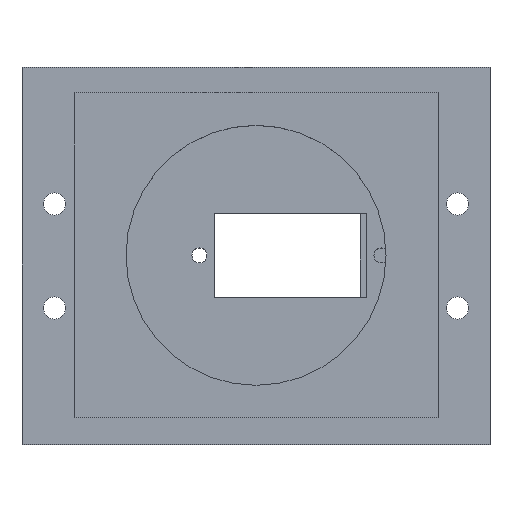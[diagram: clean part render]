
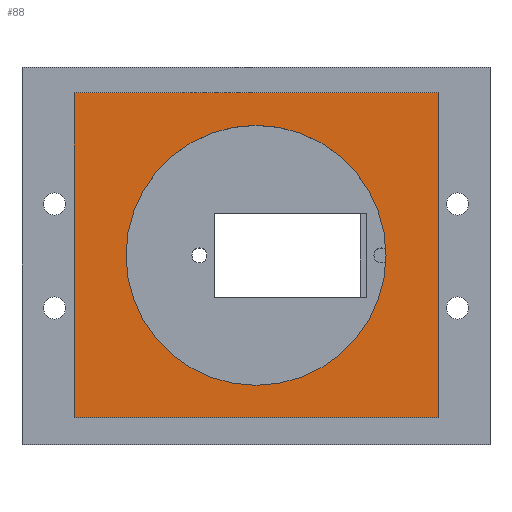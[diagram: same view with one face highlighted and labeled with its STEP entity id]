
A CAD part, top view. The second image highlights one B-rep face of the part: STEP entity #88.
In plain terms, the highlighted planar face has unit normal (0, 0, 1).
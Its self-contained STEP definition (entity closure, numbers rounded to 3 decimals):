
#24 = VERTEX_POINT('',#25);
#25 = CARTESIAN_POINT('',(8.,4.,60.));
#40 = VERTEX_POINT('',#41);
#41 = CARTESIAN_POINT('',(8.,54.,60.));
#47 = EDGE_CURVE('',#24,#40,#48,.T.);
#48 = LINE('',#49,#50);
#49 = CARTESIAN_POINT('',(8.,4.,60.));
#50 = VECTOR('',#51,1.);
#51 = DIRECTION('',(-0.,1.,0.));
#70 = EDGE_CURVE('',#24,#71,#73,.T.);
#71 = VERTEX_POINT('',#72);
#72 = CARTESIAN_POINT('',(64.,4.,60.));
#73 = LINE('',#74,#75);
#74 = CARTESIAN_POINT('',(8.,4.,60.));
#75 = VECTOR('',#76,1.);
#76 = DIRECTION('',(1.,0.,-0.));
#88 = ADVANCED_FACE('',(#89,#107),#118,.T.);
#89 = FACE_BOUND('',#90,.T.);
#90 = EDGE_LOOP('',(#91,#92,#93,#101));
#91 = ORIENTED_EDGE('',*,*,#47,.F.);
#92 = ORIENTED_EDGE('',*,*,#70,.T.);
#93 = ORIENTED_EDGE('',*,*,#94,.T.);
#94 = EDGE_CURVE('',#71,#95,#97,.T.);
#95 = VERTEX_POINT('',#96);
#96 = CARTESIAN_POINT('',(64.,54.,60.));
#97 = LINE('',#98,#99);
#98 = CARTESIAN_POINT('',(64.,4.,60.));
#99 = VECTOR('',#100,1.);
#100 = DIRECTION('',(-0.,1.,0.));
#101 = ORIENTED_EDGE('',*,*,#102,.F.);
#102 = EDGE_CURVE('',#40,#95,#103,.T.);
#103 = LINE('',#104,#105);
#104 = CARTESIAN_POINT('',(8.,54.,60.));
#105 = VECTOR('',#106,1.);
#106 = DIRECTION('',(1.,0.,-0.));
#107 = FACE_BOUND('',#108,.T.);
#108 = EDGE_LOOP('',(#109));
#109 = ORIENTED_EDGE('',*,*,#110,.F.);
#110 = EDGE_CURVE('',#111,#111,#113,.T.);
#111 = VERTEX_POINT('',#112);
#112 = CARTESIAN_POINT('',(56.,29.,60.));
#113 = CIRCLE('',#114,20.);
#114 = AXIS2_PLACEMENT_3D('',#115,#116,#117);
#115 = CARTESIAN_POINT('',(36.,29.,60.));
#116 = DIRECTION('',(0.,0.,1.));
#117 = DIRECTION('',(1.,0.,-0.));
#118 = PLANE('',#119);
#119 = AXIS2_PLACEMENT_3D('',#120,#121,#122);
#120 = CARTESIAN_POINT('',(8.,4.,60.));
#121 = DIRECTION('',(0.,0.,1.));
#122 = DIRECTION('',(1.,0.,-0.));
